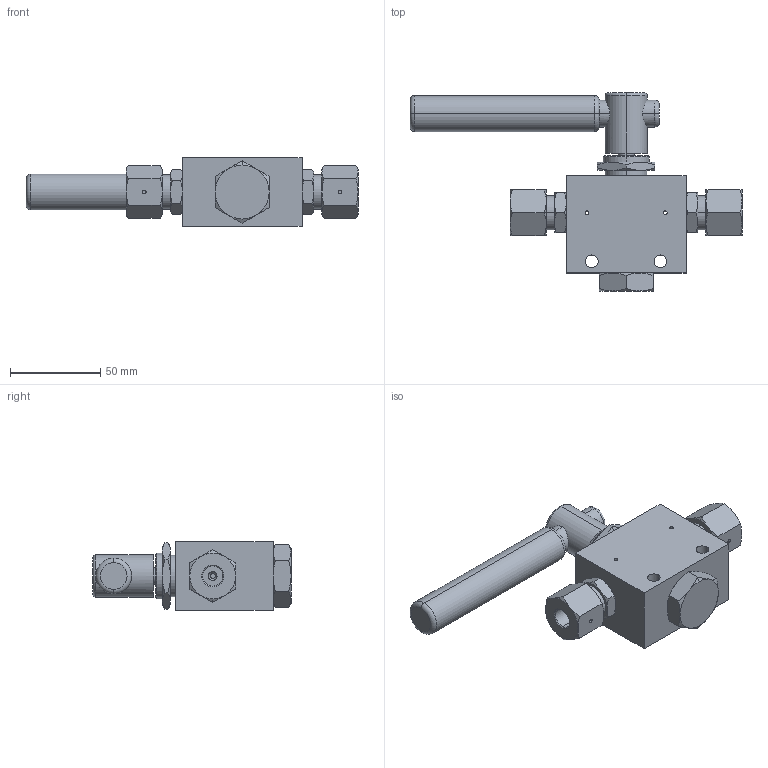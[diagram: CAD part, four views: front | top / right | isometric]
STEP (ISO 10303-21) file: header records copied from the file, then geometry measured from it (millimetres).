
FILE_DESCRIPTION (( 'STEP AP203' ), '1' );
FILE_NAME ('BV2003S04-2-90.STEP', '2022-03-31T10:04:18', ( '' ), ( '' ), 'SwSTEP 2.0', 'SolidWorks 2020', '' );
FILE_SCHEMA (( 'CONFIG_CONTROL_DESIGN' ));
Length unit declared in the file: millimetre
Products named in the file (1): BV2003S04-2-90
Bounding box: 184.33 x 110 x 38 mm (x, y, z)
Volume: 224063 mm3; surface area: 39228.2 mm2
Topology: 1 solids, 1 shells, 208 faces, 456 edges, 266 vertices
Faces by surface type: cone 98, plane 60, cylinder 42, torus 8
Entity records: 6445 total; most frequent: CARTESIAN_POINT 1983, ORIENTED_EDGE 904, DIRECTION 902, EDGE_CURVE 452, AXIS2_PLACEMENT_3D 393, VERTEX_POINT 266, EDGE_LOOP 240, ADVANCED_FACE 208
